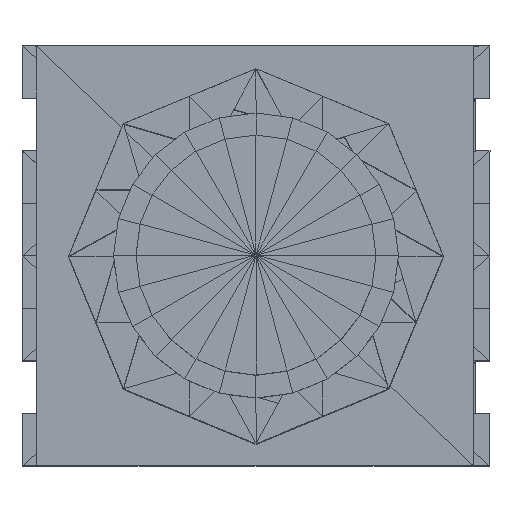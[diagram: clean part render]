
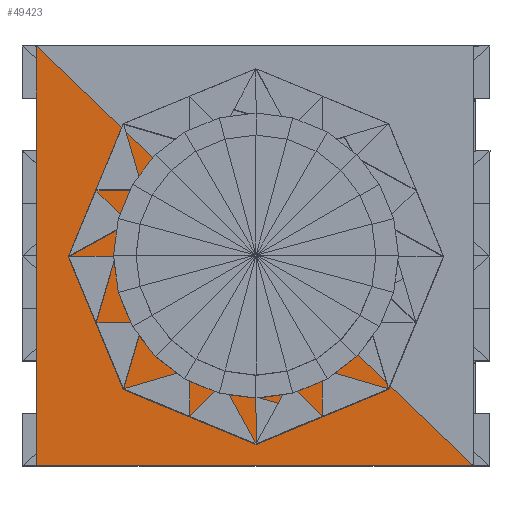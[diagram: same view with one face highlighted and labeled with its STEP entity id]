
A CAD part, top view. The second image highlights one B-rep face of the part: STEP entity #49423.
In plain terms, the highlighted planar face has unit normal (0, 0.001, -1).
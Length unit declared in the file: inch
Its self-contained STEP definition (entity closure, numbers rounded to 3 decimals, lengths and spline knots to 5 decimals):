
#48861=CARTESIAN_POINT('',(-0.3661,0.3499,0.6102));
#48862=VERTEX_POINT('',#48861);
#48962=CARTESIAN_POINT('',(0.36238,-0.3502,0.60956));
#48963=VERTEX_POINT('',#48962);
#49024=CARTESIAN_POINT('',(-0.3662,-0.3501,0.60982));
#49025=VERTEX_POINT('',#49024);
#49125=CARTESIAN_POINT('',(0.36236,-0.3502,0.60956));
#49126=DIRECTION('',(-0.721,0.693,0.001));
#49127=VECTOR('',#49126,1.0103);
#49128=LINE('',#49125,#49127);
#49129=EDGE_CURVE('',#48963,#48862,#49128,.T.);
#49279=CARTESIAN_POINT('',(0.36236,-0.3502,0.60956));
#49280=DIRECTION('',(-1.,0.,0.));
#49281=VECTOR('',#49280,0.72851);
#49282=LINE('',#49279,#49281);
#49283=EDGE_CURVE('',#48963,#49025,#49282,.T.);
#49358=CARTESIAN_POINT('',(-0.36615,-0.3501,0.60982));
#49359=DIRECTION('',(0.,1.,0.001));
#49360=VECTOR('',#49359,0.7);
#49361=LINE('',#49358,#49360);
#49362=EDGE_CURVE('',#49025,#48862,#49361,.T.);
#49413=CARTESIAN_POINT('',(0.36236,-0.3502,0.60956));
#49414=DIRECTION('',(0.,-0.001,1.));
#49415=DIRECTION('',(1.,0.,0.));
#49416=AXIS2_PLACEMENT_3D('',#49413,#49414,#49415);
#49417=PLANE('',#49416);
#49418=ORIENTED_EDGE('',*,*,#49283,.T.);
#49419=ORIENTED_EDGE('',*,*,#49362,.T.);
#49420=ORIENTED_EDGE('',*,*,#49129,.F.);
#49421=EDGE_LOOP('',(#49418,#49419,#49420));
#49422=FACE_BOUND('',#49421,.T.);
#49423=ADVANCED_FACE('',(#49422),#49417,.F.);
